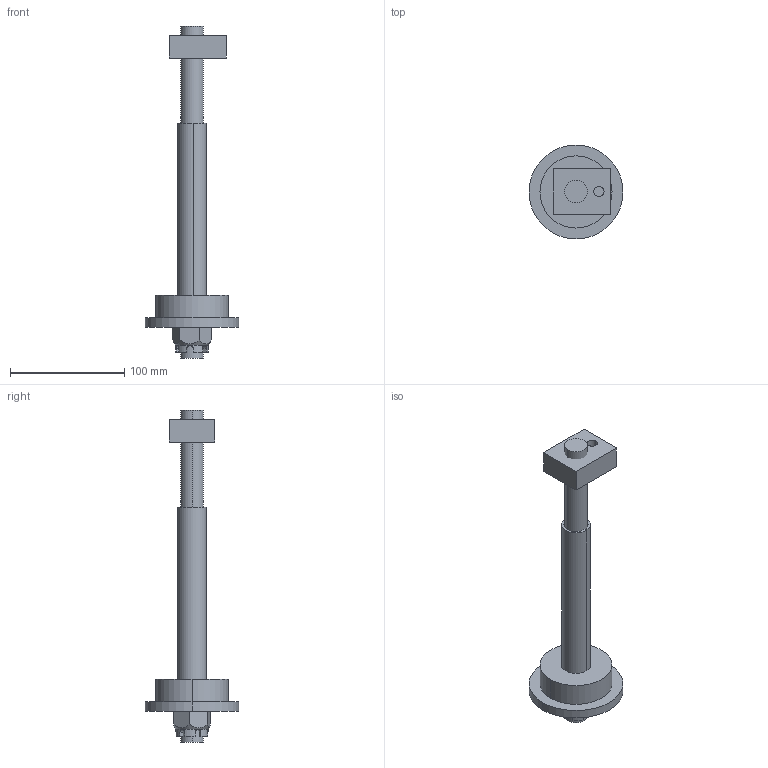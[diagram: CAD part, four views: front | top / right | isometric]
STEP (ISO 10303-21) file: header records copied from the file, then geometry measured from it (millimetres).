
FILE_DESCRIPTION(('CATIA V5 STEP Exchange'),'2;1');
FILE_NAME('C:\Users\Utente\Desktop\IO LAVORO\3D X SITO CF\X 3D SITO CF 27-09-2020\740T\740T-20\740T-20.stp','2020-10-27T18:56:55+00:00',('none'),('none'),'CATIA Version 5 Release 20 GA (IN-10)','CATIA V5 STEP AP203','none');
FILE_SCHEMA(('CONFIG_CONTROL_DESIGN'));
Length unit declared in the file: millimetre
Products named in the file (1): 740T-20
Assembly tree (6 placements, depth 2):
  740T-20
    #58
    #237
    #416
    #2095
    #2274
    #2589
Bounding box: 82 x 82 x 290 mm (x, y, z)
Volume: 250479.6 mm3; surface area: 79870.2 mm2
Topology: 6 solids, 6 shells, 75 faces, 184 edges, 120 vertices
Faces by surface type: plane 39, cylinder 34, cone 2
Entity records: 2675 total; most frequent: CARTESIAN_POINT 791, ORIENTED_EDGE 368, DIRECTION 322, EDGE_CURVE 184, AXIS2_PLACEMENT_3D 139, VERTEX_POINT 120, VECTOR 96, LINE 96
